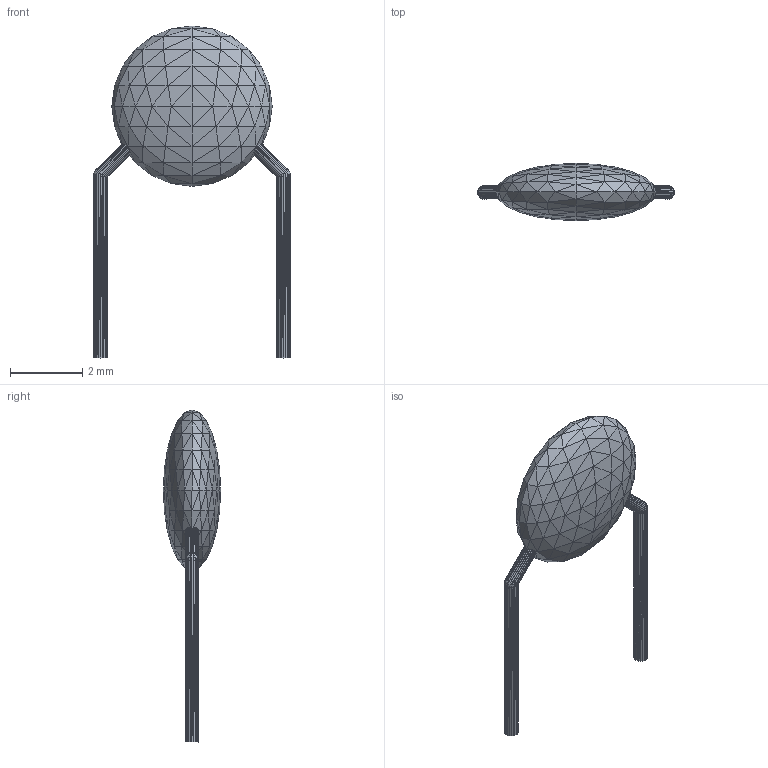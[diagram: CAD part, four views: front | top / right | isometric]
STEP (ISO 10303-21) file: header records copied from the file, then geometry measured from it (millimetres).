
FILE_DESCRIPTION(('HOOPS Exchange Step'),'2;1');
FILE_NAME('***.stp');
FILE_SCHEMA( ('AP242_MANAGED_MODEL_BASED_3D_ENGINEERING_MIM_LF {1 0 10303 442 1 1 4 }') );
Length unit declared in the file: inch
Products named in the file (8): CAPSMPF_2; CAPSMPF_3; CAPSMPF_4; CAPSMPF_5; CAPSMPF_6; CAPSMPF_7; CAPSMPF_8; CAPSMPF
Assembly tree (7 placements, depth 2):
  CAPSMPF
    CAPSMPF_2
    CAPSMPF_3
    CAPSMPF_4
    CAPSMPF_5
    CAPSMPF_6
    CAPSMPF_7
    CAPSMPF_8
Bounding box: 5.46 x 1.59 x 9.21 mm (x, y, z)
Volume: 17.5 mm3; surface area: 57.3 mm2
Topology: 7 solids, 7 shells, 1248 faces, 1872 edges, 638 vertices
Faces by surface type: plane 1248
Entity records: 24700 total; most frequent: DIRECTION 4400, CARTESIAN_POINT 3774, ORIENTED_EDGE 3744, VECTOR 1872, LINE 1872, EDGE_CURVE 1872, AXIS2_PLACEMENT_3D 1264, PLANE 1248
